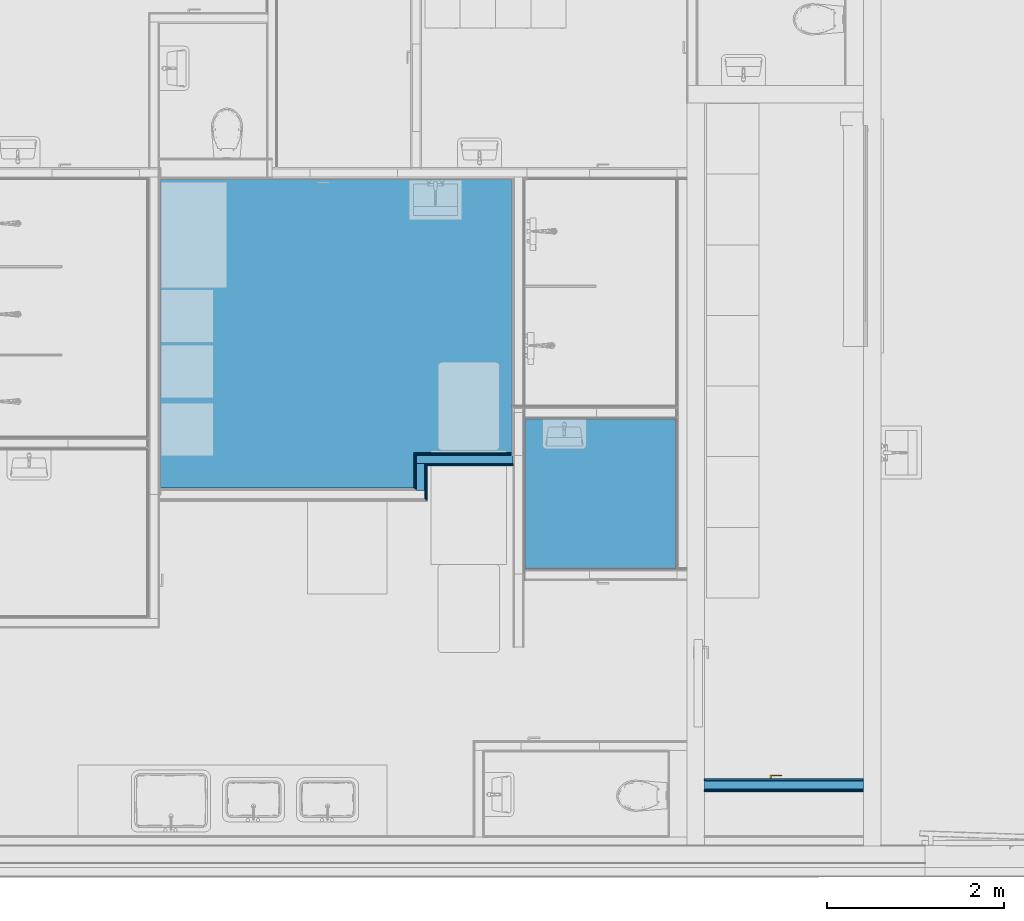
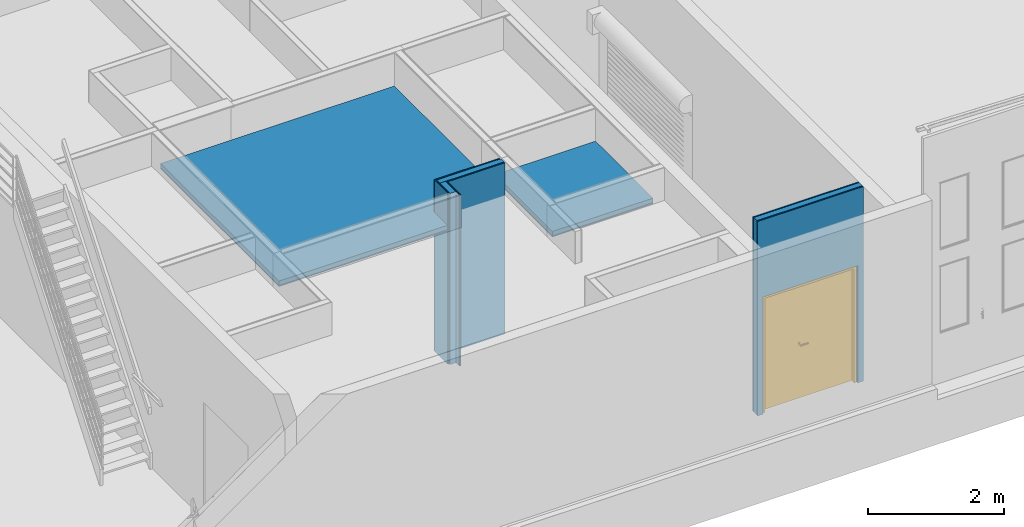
# One storey, part 6 of 67: 19 building element parts, 1 door, 1 opening, 5 elements without a shape of their own.
"""IFC4 building model written with IfcOpenShell, lengths in millimetres."""

from ifc_helpers import new_model, entity, si_unit, converted_unit, direction, frame, origin, place, context, subcontext, project, spatial, indexed_curve, outline, extrude, polygons, source, transform, mapped, material, constituent, constituent_set, type_object, type_shapes, element, fill, aggregate, save


model = new_model("IFC4")

# Units and contexts
model_context = context("Model", 3, precision=0.01, world=origin(), true_north=direction((0.0, 1.0)))
body_context = subcontext(model_context, "Body", "Model", "MODEL_VIEW")
ifc_project = project(units=[si_unit("LENGTHUNIT", "METRE", prefix="MILLI"), si_unit("AREAUNIT", "SQUARE_METRE"), si_unit("VOLUMEUNIT", "CUBIC_METRE"), converted_unit("PLANEANGLEUNIT", "DEGREE", entity("IfcPlaneAngleMeasure", 0.017453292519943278), si_unit("PLANEANGLEUNIT", "RADIAN"), dimensions=[0, 0, 0, 0, 0, 0, 0])], contexts=[model_context])

# Site, building, storey
site_placement = place(None, origin())
site = spatial("IfcSite", under=ifc_project, at=site_placement, Name="Tomtens navn", CompositionType="ELEMENT")
building_placement = place(site_placement, origin())
building = spatial("IfcBuilding", under=site, at=building_placement, Name="Byggets navn", CompositionType="ELEMENT")
storey_placement = place(building_placement, origin())
storey = spatial("IfcBuildingStorey", under=building, at=storey_placement, Name="Level 01", CompositionType="ELEMENT", Elevation=2.1993652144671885e-25)

# Door
ifc_material_1 = material(Name="Hvit", Category="Paint")
ifc_constituent_1 = constituent(ifc_material_1, Name="Hvit", Category="Paint", fraction=0.9988255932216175)
ifc_material_2 = material(Name="Rustfritt Stål", Category="Metal")
ifc_constituent_2 = constituent(ifc_material_2, Name="Rustfritt Stål", Category="Metal", fraction=0.001174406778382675)
ifc_constituent_set_1 = constituent_set(constituents=[ifc_constituent_1, ifc_constituent_2])
ifc_constituent_3 = constituent(ifc_material_1, Name="Frame/Mullion", Category="Paint", fraction=0.4997062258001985)
ifc_constituent_4 = constituent(ifc_material_2, Name="Rustfritt Stål", Category="Metal", fraction=0.0005875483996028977)
ifc_constituent_5 = constituent(ifc_material_1, Name="Panel", Category="Paint", fraction=0.4997062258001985)
ifc_constituent_set_2 = constituent_set(constituents=[ifc_constituent_3, ifc_constituent_4, ifc_constituent_5])
door_type = type_object("IfcDoorType", Name="Tofløyet:ID14 Tredør 16x21M EI30Sa", OperationType="DOUBLE_DOOR_SINGLE_SWING", PredefinedType="DOOR", material=ifc_constituent_set_2)
shared_shape = source(origin(), body_context, "Body", "SweptSolid", [
    extrude(outline(indexed_curve([(-279.49999999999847, -20.000000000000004), (279.4999999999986, -20.000000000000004), (279.4999999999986, 20.000000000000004), (-279.49999999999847, 20.000000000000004), (-279.49999999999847, -20.000000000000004)], self_intersect=False)), frame((325.5000000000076, 107.0, 10.0)), (0.0, 0.0, 1.0), 2044.0000000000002),
    extrude(outline(indexed_curve([(-50.83333333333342, -33.33333333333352), (-35.83333333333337, -33.333333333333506), (-35.833333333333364, 9.166666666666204), (86.66666666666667, 9.166666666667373), (86.6666666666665, 24.16666666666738), (-50.833333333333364, 24.166666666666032), (-50.83333333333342, -33.33333333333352)], self_intersect=False)), frame((698.3333333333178, 165.9410394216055, 980.5000000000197)), (0.0, 0.0, 1.0), 14.999999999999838),
    extrude(outline(indexed_curve([(-24.999999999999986, -2.7999999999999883), (25.000000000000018, -2.8000000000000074), (24.999999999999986, 2.7999999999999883), (-24.99999999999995, 2.800000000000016), (-24.999999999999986, -2.7999999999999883)], self_intersect=False)), frame((655.0, 129.80000000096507, 850.9862950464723), z_axis=(0.0, 0.0, 1.0), x_axis=(-1.0, 0.0, 0.0)), (0.0, 0.0, 1.0), 159.01370495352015),
    extrude(outline(indexed_curve([(-33.33333333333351, -50.83333333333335), (24.166666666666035, -50.83333333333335), (24.166666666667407, 86.66666666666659), (9.166666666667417, 86.6666666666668), (9.16666666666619, -35.83333333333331), (-33.33333333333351, -35.83333333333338), (-33.33333333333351, -50.83333333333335)], self_intersect=False)), frame((698.3333333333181, 48.058960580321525, 980.5000000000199), z_axis=(0.0, 0.0, 1.0), x_axis=(0.0, -1.0, 0.0)), (0.0, 0.0, 1.0), 14.999999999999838),
    extrude(outline(indexed_curve([(-2.8000000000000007, -25.0), (2.7999999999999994, -25.0), (2.800000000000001, 25.00000000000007), (-2.8000000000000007, 25.0), (-2.8000000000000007, -25.0)], self_intersect=False)), frame((655.0, 84.20000000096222, 850.9862950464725), z_axis=(0.0, 0.0, 1.0), x_axis=(0.0, 1.0, 0.0)), (0.0, 0.0, 1.0), 159.01370495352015),
    extrude(outline(indexed_curve([(-20.0, -479.4999999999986), (20.000000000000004, -479.4999999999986), (20.000000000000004, 479.4999999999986), (-20.0, 479.4999999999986), (-20.0, -479.4999999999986)], self_intersect=False)), frame((1084.4999999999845, 107.0, 10.0), z_axis=(0.0, 0.0, 1.0), x_axis=(0.0, 1.0, 0.0)), (0.0, 0.0, 1.0), 2044.0000000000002),
    extrude(outline(indexed_curve([(-1035.9999999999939, -794.9999999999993), (1053.9999999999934, -794.9999999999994), (1053.9999999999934, 794.9999999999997), (-1035.999999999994, 794.9999999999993), (-1035.999999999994, 759.0000000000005), (1017.9999999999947, 759.0000000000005), (1017.9999999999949, -759.0000000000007), (-1035.9999999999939, -759.0000000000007), (-1035.9999999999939, -794.9999999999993)], self_intersect=False)), frame((805.0, 27.0, 1036.0), z_axis=(0.0, 1.0, 0.0), x_axis=(0.0, 0.0, 1.0)), (0.0, 0.0, 1.0), 99.99999999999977),
])
type_shapes(door_type, [shared_shape])
wall_3_placement = place(storey_placement, frame((66822.85352810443, 8746.966456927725, 0.0)))
opening_placement = place(wall_3_placement, frame((95.0, -73.50000000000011, 0.0)))
door_placement = place(opening_placement, origin())
door = element("IfcDoor", 1, at=door_placement, inside=storey, type_object=door_type, material=ifc_constituent_set_1, Name="Tofløyet:ID14 Tredør 16x21M EI30Sa", OverallHeight=2109.999999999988, OverallWidth=1610.0000000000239, PredefinedType="DOOR", context=body_context, shape_type="MappedRepresentation", body=[
    mapped(shared_shape, transform((0.0, 0.0, 0.0), scale=1.0)),
])

# Space
space_1_placement = place(storey_placement, origin())
space_1 = spatial("IfcSpace", under=storey, at=space_1_placement, CompositionType="ELEMENT", PredefinedType="NOTDEFINED")

# Covering, building element parts
covering_type = type_object("IfcCoveringType", Name="Compound Ceiling:H01 257_Systemhimling 600x600, tykkelse 100", PredefinedType="CEILING")
covering_1_placement = place(space_1_placement, origin())
covering_1 = element("IfcCovering", 2, at=covering_1_placement, inside=space_1, type_object=covering_type, Name="Compound Ceiling:H01 257_Systemhimling 600x600, tykkelse 100", PredefinedType="CEILING")
ifc_material_3 = material(Name="NO_Himling (type ikke bestemt)", Category="Diverse")
building_element_part_1_placement = place(covering_1_placement, origin())
building_element_part_1 = element("IfcBuildingElementPart", 3, at=building_element_part_1_placement, material=ifc_material_3, Name="NO_Himling (type ikke bestemt)", context=body_context, shape_type="SweptSolid", body=[
    extrude(outline(indexed_curve([(-846.5395734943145, -855.999999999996), (846.5395734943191, -855.999999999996), (846.5395734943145, 855.999999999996), (-846.539573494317, 855.9999999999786), (-846.5395734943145, -855.999999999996)], self_intersect=False)), frame((65645.85352810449, 12048.006030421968, 2420.0), z_axis=(0.0, 0.0, 1.0), x_axis=(0.0, -1.0, 0.0)), (0.0, 0.0, 1.0), 79.99999999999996),
])
ifc_material_4 = material(Name="NO_Himling 600x600", Category="Diverse")
building_element_part_2_placement = place(covering_1_placement, origin())
building_element_part_2 = element("IfcBuildingElementPart", 4, at=building_element_part_2_placement, material=ifc_material_4, Name="NO_Himling 600x600", context=body_context, shape_type="SweptSolid", body=[
    extrude(outline(indexed_curve([(-846.5395734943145, -855.999999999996), (846.5395734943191, -855.999999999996), (846.5395734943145, 855.999999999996), (-846.539573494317, 855.9999999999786), (-846.5395734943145, -855.999999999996)], self_intersect=False)), frame((65645.85352810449, 12048.006030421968, 2400.0), z_axis=(0.0, 0.0, 1.0), x_axis=(0.0, -1.0, 0.0)), (0.0, 0.0, 1.0), 20.000000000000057),
])
aggregate(covering_1, [building_element_part_1, building_element_part_2])

# Wall, building element parts
wall_type_1 = type_object("IfcWallType", Name="Basic Wall:IV05 - Forestia+Gips- Stender-kryssfiner- Gips", PredefinedType="STANDARD")
wall_1_placement = place(storey_placement, frame((64655.853528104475, 12437.216456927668, 0.0), z_axis=(0.0, 0.0, 1.0), x_axis=(-1.0, 0.0, 0.0)))
wall_1 = element("IfcWall", 5, at=wall_1_placement, inside=storey, type_object=wall_type_1, Name="Basic Wall:IV05 - Forestia+Gips- Stender-kryssfiner- Gips", PredefinedType="NOTDEFINED")
ifc_material_5 = material(Name="NO_Kryssfiner", Category="Tre")
building_element_part_3_placement = place(wall_1_placement, origin())
building_element_part_3 = element("IfcBuildingElementPart", 6, at=building_element_part_3_placement, material=ifc_material_5, Name="NO_Kryssfiner", context=body_context, shape_type="SweptSolid", body=[
    extrude(outline(indexed_curve([(-7.500000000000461, -548.000000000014), (7.499999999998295, -548.000000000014), (7.499999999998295, 547.9999999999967), (-7.500000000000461, 547.9999999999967), (-7.500000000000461, -548.000000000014)], self_intersect=False)), frame((563.0, -54.0, 0.0), z_axis=(0.0, 0.0, 1.0), x_axis=(0.0, 1.0, 0.0)), (0.0, 0.0, 1.0), 3079.9999999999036),
])
ifc_material_6 = material(Name="NO_platekledning forestia", Category="Tre")
building_element_part_4_placement = place(wall_1_placement, origin())
building_element_part_4 = element("IfcBuildingElementPart", 7, at=building_element_part_4_placement, material=ifc_material_6, Name="NO_platekledning forestia", context=body_context, shape_type="SweptSolid", body=[
    extrude(outline(indexed_curve([(-6.500000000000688, -494.00000000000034), (6.500000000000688, -494.00000000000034), (6.500000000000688, 494.000000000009), (-6.500000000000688, 494.000000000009), (-6.500000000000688, -494.00000000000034)], self_intersect=False)), frame((494.0, 68.0, 0.0), z_axis=(0.0, 0.0, 1.0), x_axis=(0.0, 1.0, 0.0)), (0.0, 0.0, 1.0), 3079.9999999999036),
])
ifc_material_7 = material(Name="Stender", Category="Unassigned")
building_element_part_5_placement = place(wall_1_placement, origin())
building_element_part_5 = element("IfcBuildingElementPart", 8, at=building_element_part_5_placement, material=ifc_material_7, Name="Stender", context=body_context, shape_type="SweptSolid", body=[
    extrude(outline(indexed_curve([(-33.203298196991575, -725.6666666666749), (61.79670180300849, -725.6666666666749), (61.79670180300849, 370.33333333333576), (-28.59340360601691, 370.33333333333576), (-28.59340360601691, 355.33333333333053), (-33.203298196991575, 355.33333333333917), (-33.203298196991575, -725.6666666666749)], self_intersect=False)), frame((370.33333333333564, -13.296701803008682, 0.0), z_axis=(0.0, 0.0, 1.0), x_axis=(0.0, 1.0, 0.0)), (0.0, 0.0, 1.0), 3079.999999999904),
])
ifc_material_8 = material(Name="Gipsplater", Category="NOR ^ Gips")
building_element_part_6_placement = place(wall_1_placement, origin())
building_element_part_6 = element("IfcBuildingElementPart", 9, at=building_element_part_6_placement, material=ifc_material_8, Name="Gipsplater", context=body_context, shape_type="SweptSolid", body=[
    extrude(outline(indexed_curve([(-6.500000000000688, -554.5000000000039), (6.500000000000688, -554.5000000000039), (6.500000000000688, 554.5000000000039), (-6.500000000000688, 554.5000000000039), (-6.500000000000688, -554.5000000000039)], self_intersect=False)), frame((569.500000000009, -68.0, 0.0), z_axis=(0.0, 0.0, 1.0), x_axis=(0.0, 1.0, 0.0)), (0.0, 0.0, 1.0), 3079.9999999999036),
])
building_element_part_7_placement = place(wall_1_placement, origin())
building_element_part_7 = element("IfcBuildingElementPart", 10, at=building_element_part_7_placement, material=ifc_material_8, Name="Gipsplater", context=body_context, shape_type="SweptSolid", body=[
    extrude(outline(indexed_curve([(-6.499999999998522, -500.5000000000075), (6.500000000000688, -500.5000000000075), (6.500000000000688, 500.5000000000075), (-6.499999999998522, 500.50000000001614), (-6.499999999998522, -500.5000000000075)], self_intersect=False)), frame((500.50000000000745, 55.0, 0.0), z_axis=(0.0, 0.0, 1.0), x_axis=(0.0, 1.0, 0.0)), (0.0, 0.0, 1.0), 3079.9999999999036),
])
aggregate(wall_1, [building_element_part_3, building_element_part_4, building_element_part_5, building_element_part_6, building_element_part_7])

wall_2_placement = place(storey_placement, frame((63606.35352810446, 12362.716456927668, 0.0), z_axis=(0.0, 0.0, 1.0), x_axis=(0.0, -1.0, 0.0)))
wall_2 = element("IfcWall", 11, at=wall_2_placement, inside=storey, type_object=wall_type_1, Name="Basic Wall:IV05 - Forestia+Gips- Stender-kryssfiner- Gips", PredefinedType="NOTDEFINED")
building_element_part_8_placement = place(wall_2_placement, origin())
building_element_part_8 = element("IfcBuildingElementPart", 12, at=building_element_part_8_placement, material=ifc_material_5, Name="NO_Kryssfiner", context=body_context, shape_type="SweptSolid", body=[
    extrude(outline(indexed_curve([(-192.49999999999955, -7.500000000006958), (192.5000000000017, -7.500000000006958), (192.5000000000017, 7.499999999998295), (-192.49999999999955, 7.499999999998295), (-192.49999999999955, -7.500000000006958)], self_intersect=False)), frame((71.4999999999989, -54.0, 0.0)), (0.0, 0.0, 1.0), 3079.9999999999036),
])
building_element_part_9_placement = place(wall_2_placement, origin())
building_element_part_9 = element("IfcBuildingElementPart", 13, at=building_element_part_9_placement, material=ifc_material_6, Name="NO_platekledning forestia", context=body_context, shape_type="SweptSolid", body=[
    extrude(outline(indexed_curve([(-193.50000000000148, -6.499999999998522), (193.49999999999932, -6.499999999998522), (193.49999999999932, 6.499999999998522), (-193.50000000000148, 6.499999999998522), (-193.50000000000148, -6.499999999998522)], self_intersect=False)), frame((193.49999999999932, 68.0, 0.0)), (0.0, 0.0, 1.0), 3079.9999999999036),
])
building_element_part_10_placement = place(wall_2_placement, origin())
building_element_part_10 = element("IfcBuildingElementPart", 14, at=building_element_part_10_placement, material=ifc_material_7, Name="Stender", context=body_context, shape_type="SweptSolid", body=[
    extrude(outline(indexed_curve([(-152.49999999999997, -47.49999999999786), (152.50000000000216, -47.49999999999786), (152.50000000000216, 47.49999999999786), (-152.49999999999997, 47.49999999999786), (-152.49999999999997, -47.49999999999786)], self_intersect=False)), frame((126.4999999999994, 1.0, 0.0)), (0.0, 0.0, 1.0), 3079.9999999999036),
])
building_element_part_11_placement = place(wall_2_placement, origin())
building_element_part_11 = element("IfcBuildingElementPart", 15, at=building_element_part_11_placement, material=ifc_material_8, Name="Gipsplater", context=body_context, shape_type="SweptSolid", body=[
    extrude(outline(indexed_curve([(-193.50000000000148, -6.499999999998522), (193.49999999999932, -6.499999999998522), (193.49999999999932, 6.499999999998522), (-193.50000000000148, 6.499999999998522), (-193.50000000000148, -6.499999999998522)], self_intersect=False)), frame((57.50000000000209, -68.0, 0.0)), (0.0, 0.0, 1.0), 3079.9999999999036),
])
building_element_part_12_placement = place(wall_2_placement, origin())
building_element_part_12 = element("IfcBuildingElementPart", 16, at=building_element_part_12_placement, material=ifc_material_8, Name="Gipsplater", context=body_context, shape_type="SweptSolid", body=[
    extrude(outline(indexed_curve([(-193.49999999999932, -6.499999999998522), (193.50000000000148, -6.499999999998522), (193.50000000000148, 6.500000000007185), (-193.49999999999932, 6.500000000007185), (-193.49999999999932, -6.499999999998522)], self_intersect=False)), frame((180.49999999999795, 55.0, 0.0)), (0.0, 0.0, 1.0), 3079.9999999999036),
])
aggregate(wall_2, [building_element_part_8, building_element_part_9, building_element_part_10, building_element_part_11, building_element_part_12])

# Space
space_2_placement = place(storey_placement, origin())
space_2 = spatial("IfcSpace", under=storey, at=space_2_placement, CompositionType="ELEMENT", PredefinedType="NOTDEFINED")

# Covering, building element parts
covering_2_placement = place(space_2_placement, origin())
covering_2 = element("IfcCovering", 17, at=covering_2_placement, inside=space_2, type_object=covering_type, Name="Compound Ceiling:H01 257_Systemhimling 600x600, tykkelse 100", PredefinedType="CEILING")
building_element_part_13_placement = place(covering_2_placement, origin())
building_element_part_13 = element("IfcBuildingElementPart", 18, at=building_element_part_13_placement, material=ifc_material_3, Name="NO_Himling (type ikke bestemt)", context=body_context, shape_type="SweptSolid", body=[
    extrude(outline(indexed_curve([(-2194.8333333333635, -2282.333333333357), (1297.4166666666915, -2282.3333333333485), (1297.4166666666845, 586.6666666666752), (897.4166666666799, 586.6666666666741), (897.4166666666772, 1695.6666666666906), (-2194.8333333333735, 1695.6666666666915), (-2194.8333333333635, -2282.333333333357)], self_intersect=False)), frame((62945.18686143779, 13409.13312359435, 2420.0), z_axis=(0.0, 0.0, 1.0), x_axis=(0.0, -1.0, 0.0)), (0.0, 0.0, 1.0), 79.99999999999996),
])
building_element_part_14_placement = place(covering_2_placement, origin())
building_element_part_14 = element("IfcBuildingElementPart", 19, at=building_element_part_14_placement, material=ifc_material_4, Name="NO_Himling 600x600", context=body_context, shape_type="SweptSolid", body=[
    extrude(outline(indexed_curve([(-2194.8333333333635, -2282.333333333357), (1297.4166666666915, -2282.3333333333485), (1297.4166666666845, 586.6666666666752), (897.4166666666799, 586.6666666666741), (897.4166666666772, 1695.6666666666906), (-2194.8333333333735, 1695.6666666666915), (-2194.8333333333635, -2282.333333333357)], self_intersect=False)), frame((62945.18686143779, 13409.13312359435, 2400.0), z_axis=(0.0, 0.0, 1.0), x_axis=(0.0, -1.0, 0.0)), (0.0, 0.0, 1.0), 20.000000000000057),
])
aggregate(covering_2, [building_element_part_13, building_element_part_14])

# Wall, opening
wall_type_2 = type_object("IfcWallType", Name="Basic Wall:IV01 - Gipsx2 Stender Gipsx2-147mm", PredefinedType="STANDARD")
wall_3 = element("IfcWall", 20, at=wall_3_placement, inside=storey, type_object=wall_type_2, Name="Basic Wall:IV01 - Gipsx2 Stender Gipsx2-147mm", PredefinedType="NOTDEFINED")
opening = element("IfcOpeningElement", 21, at=opening_placement, cuts=wall_3, Name="Tofløyet:ID14 Tredør 16x21M EI30Sa:1", PredefinedType="OPENING", context=body_context, shape_type="SweptSolid", body=[
    extrude(outline(indexed_curve([(0.0, 1610.0000000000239), (0.0, -1.730401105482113e-27), (2109.999999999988, -1.730401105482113e-27), (2109.999999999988, 1610.0000000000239), (0.0, 1610.0000000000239)], self_intersect=False)), frame((0.0, 0.0, 0.0), z_axis=(0.0, 1.0, 0.0), x_axis=(0.0, 0.0, 1.0)), (0.0, 0.0, 1.0), 146.99999999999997),
])

fill(opening, door)

# Building element part
building_element_part_15_placement = place(wall_3_placement, frame((0.0, -60.50000000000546, 0.0)))
building_element_part_15 = element("IfcBuildingElementPart", 22, at=building_element_part_15_placement, material=ifc_material_8, Name="Gipsplater", context=body_context, shape_type="Tessellation", body=[
    polygons([(94.99999999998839, 13.000000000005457, 7.331217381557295e-26), (2.9361463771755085e-12, 13.000000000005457, 7.331217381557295e-26), (-1.1615768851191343e-11, 13.000000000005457, 3087.999999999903), (2.9361463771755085e-12, 13.000000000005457, 3499.999999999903), (1800.000000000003, 13.000000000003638, 3499.999999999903), (1799.9999999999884, 13.000000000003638, 3087.999999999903), (1799.9999999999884, 13.000000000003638, 7.331217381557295e-26), (1705.0000000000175, 13.000000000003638, 7.331217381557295e-26), (1705.000000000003, 13.000000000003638, 2109.999999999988), (94.99999999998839, 13.000000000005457, 2109.999999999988), (94.99999999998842, 3.637978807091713e-12, 7.331217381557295e-26), (-1.1576665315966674e-11, 3.637978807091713e-12, 7.331217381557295e-26), (-1.1576665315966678e-11, 5.4569682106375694e-12, 3087.999999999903), (2.9752499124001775e-12, 3.637978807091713e-12, 3499.999999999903), (1799.9999999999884, 3.637978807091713e-12, 3499.999999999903), (1799.9999999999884, 3.637978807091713e-12, 3087.999999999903), (1799.9999999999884, 3.637978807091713e-12, 7.331217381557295e-26), (1705.0000000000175, 3.637978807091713e-12, 7.331217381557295e-26), (1705.0000000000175, 3.637978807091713e-12, 2109.999999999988), (94.99999999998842, 3.637978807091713e-12, 2109.999999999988)], [[[1, 2, 3, 4, 5, 6, 7, 8, 9, 10]], [[2, 1, 11, 12]], [[3, 2, 12, 13, 14, 4]], [[7, 6, 5, 15, 16, 17]], [[8, 7, 17, 18]], [[9, 8, 18, 19]], [[10, 9, 19, 20]], [[1, 10, 20, 11]], [[12, 11, 20, 19, 18, 17, 16, 15, 14, 13]], [[5, 4, 14, 15]]], closed=True),
])

building_element_part_16_placement = place(wall_3_placement, frame((0.0, 60.49999999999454, 0.0)))
building_element_part_16 = element("IfcBuildingElementPart", 23, at=building_element_part_16_placement, material=ifc_material_8, Name="Gipsplater", context=body_context, shape_type="Tessellation", body=[
    polygons([(94.99999999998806, 7.275957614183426e-12, 7.331217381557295e-26), (2.611286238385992e-12, 7.275957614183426e-12, 7.331217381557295e-26), (2.5721827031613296e-12, 13.000000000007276, 2.1993652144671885e-25), (94.99999999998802, 13.000000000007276, 2.1993652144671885e-25), (2.611286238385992e-12, 7.275957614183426e-12, 3087.999999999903), (2.611286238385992e-12, 7.275957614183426e-12, 3499.999999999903), (2.5721827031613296e-12, 13.000000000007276, 3499.999999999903), (2.5721827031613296e-12, 13.000000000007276, 3087.999999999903), (1799.999999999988, 5.4569682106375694e-12, 3087.999999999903), (1799.999999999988, 5.4569682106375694e-12, 7.331217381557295e-26), (1799.999999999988, 13.000000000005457, 2.1993652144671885e-25), (1799.999999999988, 13.000000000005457, 3087.999999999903), (1799.999999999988, 13.000000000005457, 3499.999999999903), (1799.999999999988, 5.4569682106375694e-12, 3499.999999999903), (1705.000000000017, 5.4569682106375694e-12, 7.331217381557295e-26), (1705.000000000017, 13.000000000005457, 2.1993652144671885e-25), (1705.0000000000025, 5.4569682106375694e-12, 2109.999999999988), (1705.000000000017, 13.000000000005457, 2109.999999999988), (94.99999999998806, 7.275957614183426e-12, 2109.999999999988), (94.99999999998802, 13.000000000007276, 2109.999999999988)], [[[1, 2, 3, 4]], [[2, 5, 6, 7, 8, 3]], [[9, 10, 11, 12, 13, 14]], [[10, 15, 16, 11]], [[15, 17, 18, 16]], [[17, 19, 20, 18]], [[19, 1, 4, 20]], [[2, 1, 19, 17, 15, 10, 9, 14, 6, 5]], [[4, 3, 8, 7, 13, 12, 11, 16, 18, 20]], [[6, 14, 13, 7]]], closed=True),
])

building_element_part_17_placement = place(wall_3_placement, frame((0.0, -47.50000000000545, 0.0)))
building_element_part_17 = element("IfcBuildingElementPart", 24, at=building_element_part_17_placement, material=ifc_material_7, Name="Stender", context=body_context, shape_type="Tessellation", body=[
    polygons([(2.9361463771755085e-12, 5.4569682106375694e-12, 7.331217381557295e-26), (94.99999999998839, 5.4569682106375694e-12, 7.331217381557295e-26), (94.99999999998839, 5.4569682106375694e-12, 2109.999999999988), (1705.000000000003, 3.637978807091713e-12, 2109.999999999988), (1705.0000000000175, 3.637978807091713e-12, 7.331217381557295e-26), (1799.9999999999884, 3.637978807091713e-12, 7.331217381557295e-26), (1799.9999999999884, 3.637978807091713e-12, 3087.999999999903), (1800.000000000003, 3.637978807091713e-12, 3499.999999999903), (2.9361463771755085e-12, 5.4569682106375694e-12, 3499.999999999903), (-1.1615768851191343e-11, 5.4569682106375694e-12, 3087.999999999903), (2.6503897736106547e-12, 95.00000000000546, 7.331217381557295e-26), (94.9999999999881, 95.00000000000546, 7.331217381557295e-26), (2.6503897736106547e-12, 95.00000000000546, 3499.999999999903), (-1.1901525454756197e-11, 95.00000000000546, 3087.999999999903), (1799.9999999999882, 95.00000000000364, 7.331217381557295e-26), (1799.9999999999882, 95.00000000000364, 3087.999999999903), (1799.9999999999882, 95.00000000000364, 3499.999999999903), (1705.0000000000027, 95.00000000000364, 7.331217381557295e-26), (1705.0000000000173, 95.00000000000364, 2109.999999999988), (94.9999999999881, 95.00000000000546, 2109.999999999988)], [[[1, 2, 3, 4, 5, 6, 7, 8, 9, 10]], [[2, 1, 11, 12]], [[1, 10, 9, 13, 14, 11]], [[7, 6, 15, 16, 17, 8]], [[6, 5, 18, 15]], [[5, 4, 19, 18]], [[4, 3, 20, 19]], [[3, 2, 12, 20]], [[12, 11, 14, 13, 17, 16, 15, 18, 19, 20]], [[9, 8, 17, 13]]], closed=True),
])

building_element_part_18_placement = place(wall_3_placement, frame((0.0, -73.50000000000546, 0.0)))
building_element_part_18 = element("IfcBuildingElementPart", 25, at=building_element_part_18_placement, material=ifc_material_8, Name="Gipsplater", context=body_context, shape_type="Tessellation", body=[
    polygons([(2.9752499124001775e-12, 13.000000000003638, 7.331217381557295e-26), (95.00000000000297, 13.000000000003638, 7.331217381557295e-26), (95.00000000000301, 5.4569682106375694e-12, 2.1993652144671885e-25), (3.014353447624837e-12, 5.4569682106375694e-12, 2.1993652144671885e-25), (2.9752499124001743e-12, 13.000000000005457, 3087.999999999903), (1.756626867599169e-11, 5.4569682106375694e-12, 3087.999999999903), (1.756626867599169e-11, 5.4569682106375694e-12, 3499.999999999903), (1.752716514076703e-11, 13.000000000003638, 3499.999999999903), (1800.000000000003, 13.000000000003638, 7.331217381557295e-26), (1800.000000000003, 13.000000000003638, 3087.999999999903), (1800.000000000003, 13.000000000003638, 3499.999999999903), (1800.000000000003, 1.8189894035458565e-12, 3499.999999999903), (1800.000000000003, 3.637978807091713e-12, 3087.999999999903), (1800.000000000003, 1.8189894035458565e-12, 2.1993652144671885e-25), (1705.000000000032, 13.000000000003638, 7.331217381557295e-26), (1705.0000000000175, 1.8189894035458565e-12, 2.1993652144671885e-25), (1705.000000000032, 13.000000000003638, 2109.999999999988), (1705.0000000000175, 1.8189894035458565e-12, 2109.999999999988), (95.00000000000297, 13.000000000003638, 2109.999999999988), (95.00000000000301, 5.4569682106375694e-12, 2109.999999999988)], [[[1, 2, 3, 4]], [[5, 1, 4, 6, 7, 8]], [[9, 10, 11, 12, 13, 14]], [[15, 9, 14, 16]], [[17, 15, 16, 18]], [[19, 17, 18, 20]], [[2, 19, 20, 3]], [[2, 1, 5, 8, 11, 10, 9, 15, 17, 19]], [[4, 3, 20, 18, 16, 14, 13, 12, 7, 6]], [[11, 8, 7, 12]]], closed=True),
])

building_element_part_19_placement = place(wall_3_placement, frame((0.0, 47.49999999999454, 0.0)))
building_element_part_19 = element("IfcBuildingElementPart", 26, at=building_element_part_19_placement, material=ifc_material_8, Name="Gipsplater", context=body_context, shape_type="Tessellation", body=[
    polygons([(95.00000000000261, 13.000000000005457, 7.331217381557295e-26), (1.7163201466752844e-11, 13.000000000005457, 7.331217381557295e-26), (1.7163201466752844e-11, 13.000000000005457, 3087.999999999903), (1.7163201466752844e-11, 13.000000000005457, 3499.999999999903), (1800.0000000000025, 13.000000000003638, 3499.999999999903), (1800.0000000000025, 13.000000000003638, 3087.999999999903), (1800.0000000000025, 13.000000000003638, 7.331217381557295e-26), (1705.0000000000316, 13.000000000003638, 7.331217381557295e-26), (1705.000000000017, 13.000000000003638, 2109.999999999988), (95.00000000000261, 13.000000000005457, 2109.999999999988), (95.00000000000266, 5.4569682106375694e-12, 7.331217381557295e-26), (1.7202305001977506e-11, 5.4569682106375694e-12, 7.331217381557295e-26), (2.6503897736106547e-12, 5.4569682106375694e-12, 3087.999999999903), (1.7202305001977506e-11, 5.4569682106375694e-12, 3499.999999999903), (1800.0000000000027, 3.637978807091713e-12, 3499.999999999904), (1800.0000000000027, 3.637978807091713e-12, 3087.999999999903), (1800.0000000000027, 3.637978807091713e-12, 7.331217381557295e-26), (1705.0000000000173, 3.637978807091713e-12, 7.331217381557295e-26), (1705.0000000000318, 3.637978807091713e-12, 2109.999999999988), (95.00000000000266, 5.4569682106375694e-12, 2109.999999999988)], [[[1, 2, 3, 4, 5, 6, 7, 8, 9, 10]], [[2, 1, 11, 12]], [[3, 2, 12, 13, 14, 4]], [[7, 6, 5, 15, 16, 17]], [[8, 7, 17, 18]], [[9, 8, 18, 19]], [[10, 9, 19, 20]], [[1, 10, 20, 11]], [[12, 11, 20, 19, 18, 17, 16, 15, 14, 13]], [[5, 4, 14, 15]]], closed=True),
])

aggregate(wall_3, [building_element_part_15, building_element_part_16, building_element_part_17, building_element_part_18, building_element_part_19])

save(model, "model.ifc")
